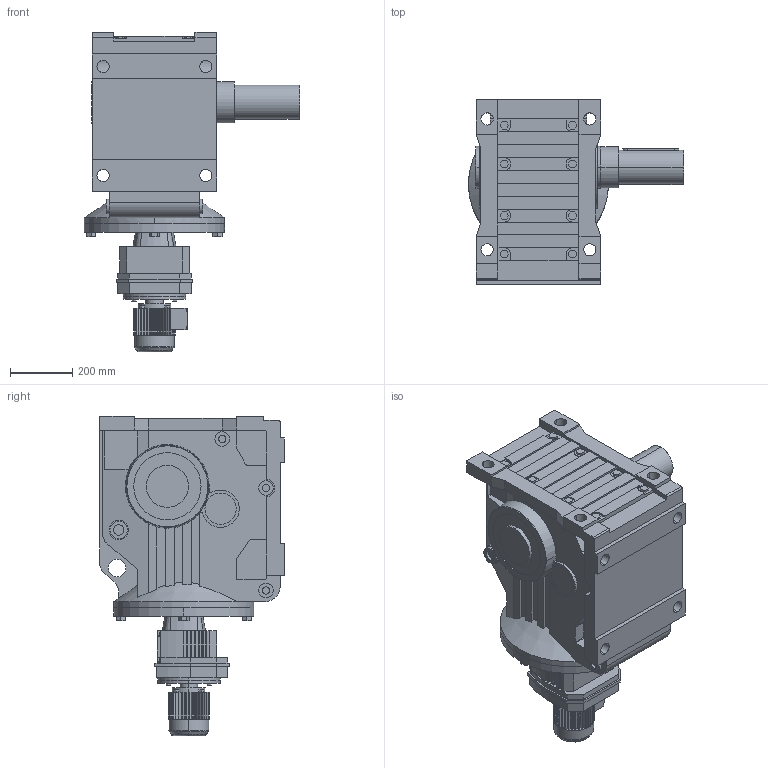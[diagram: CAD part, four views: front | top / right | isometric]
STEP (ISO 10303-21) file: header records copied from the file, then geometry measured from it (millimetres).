
FILE_DESCRIPTION(('Open CASCADE Model'),'2;1');
FILE_NAME('Open CASCADE Shape Model','2021-07-24T16:18:42',('Author'),( 'Open CASCADE'),'Open CASCADE STEP processor 6.3','Open CASCADE 6.3' ,'Unknown');
FILE_SCHEMA(('AUTOMOTIVE_DESIGN_CC2 { 1 2 10303 214 -1 1 5 4 }'));
Length unit declared in the file: millimetre
Products named in the file (5): 1_K127R77DR63-A; K37‵157_127.step; 萇儂_200-DR63-179-234-132-105.step; R_127_77.step; す瑩妗陑粣K_127.step
Assembly tree (4 placements, depth 2):
  1_K127R77DR63-A
    K37‵157_127.step
    萇儂_200-DR63-179-234-132-105.step
    R_127_77.step
    す瑩妗陑粣K_127.step
Bounding box: 691 x 592 x 1026 mm (x, y, z)
Volume: 119284345.2 mm3; surface area: 3208745.4 mm2
Topology: 4 solids, 4 shells, 1078 faces, 2861 edges, 1868 vertices
Faces by surface type: plane 770, cylinder 278, cone 22, torus 8
Entity records: 74350 total; most frequent: CARTESIAN_POINT 19567, DIRECTION 9522, ORIENTED_EDGE 5718, PCURVE 5718, DEFINITIONAL_REPRESENTATION 5718, LINE 5463, VECTOR 5463, EDGE_CURVE 2859
